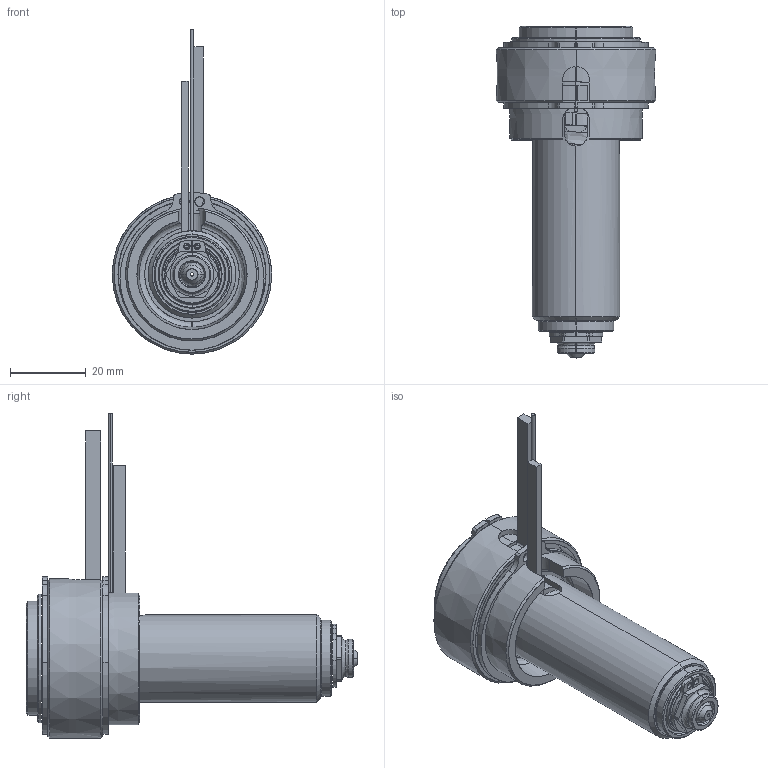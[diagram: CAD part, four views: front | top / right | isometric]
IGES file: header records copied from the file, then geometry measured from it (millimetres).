
Start section: SolidWorks IGES file using analytic representation for surfaces
Global section: file name: C:\Documents and Settings\ws-20\Desktop\TEM\UGER3551-M-A-0 [Øb-0.90  ØC-6.0].IGS; native system: SolidWorks 2012; preprocessor: SolidWorks 2012; author: ws-20; date: 120410.093951; units: millimetre
Bounding box: 42 x 87.4 x 85.4 mm (x, y, z)
Surface area: 30233.6 mm2 (no closed solid volume)
Topology: 0 solids, 0 shells, 200 faces, 3358 edges, 3358 vertices
Faces by surface type: revolution 126, bspline 74
